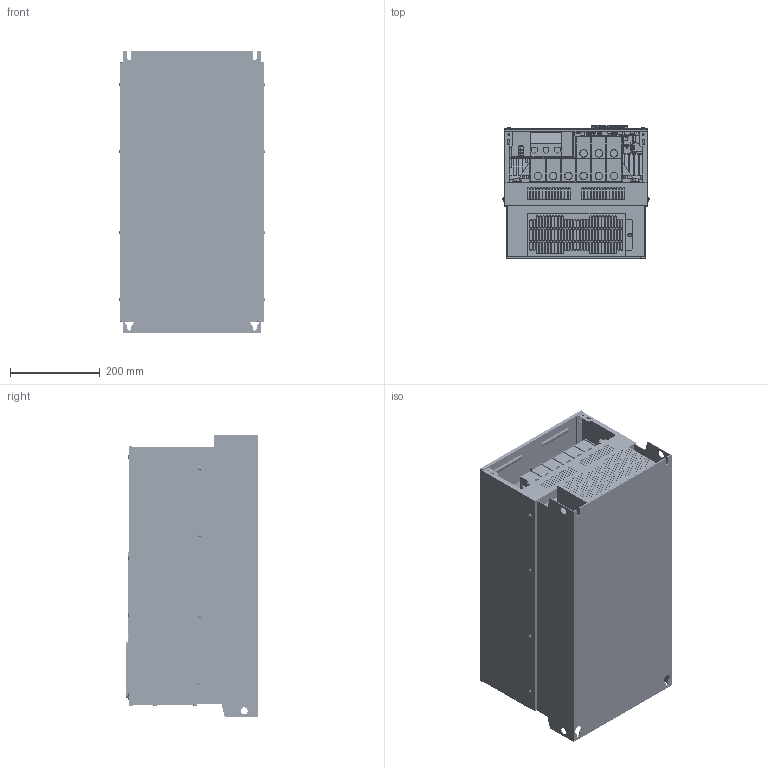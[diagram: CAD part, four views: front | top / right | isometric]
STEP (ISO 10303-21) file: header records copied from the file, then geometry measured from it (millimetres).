
FILE_DESCRIPTION((''),'2;1');
FILE_NAME('VFAS3_S5Y_01_1_ASM_1_ASM','2021-12-07T13:38:26',('SESA57284'),('Schneider-Electric'),'CREO PARAMETRIC BY PTC INC, 2019471','CREO PARAMETRIC BY PTC INC, 2019471','');
FILE_SCHEMA(('AP242_MANAGED_MODEL_BASED_3D_ENGINEERING_MIM_LF { 1 0 10303 442 1 1 4 }'));
Products named in the file (19): OPERATION_PANEL_1_PRT_1_1; OPERATION_PANEL_COVER_1_PRT_1_1; RKP010Z-A1_ASM_3_ASM_1_ASM_1_ASM; S6571352_001_ASM_1_ASM_1_ASM; VFAS3_S5Y_DRIVE_1_PRT_1; VFAS3_CONNECTOR_COVER_PRT_1_1; VFAS3_WIRING_COVER_PRT_1_1; VFAS3_PROTECTION_LABEL_PRT_1_1; VFAS3_CONTROL_TERMINAL_BLOCK__1; VFAS3_SHORTING_BAR_PRT_1_1; VFAS3_S5Y_GROUNDING_SCREW_M8X20; W62400-T1067-A3-52-00N7_IG-2644; W62400-T1067-A3-52-00N7_IG-2645; W62400-T1067-A3-52-00N7_IG-2646; W62400-T1067-A3-52-00N7_IG-2647; W62400-T1067-A3-52-00N7_IG-2648; VFAS3_S5Y_FRONT_COVER_1_PRT_1; VFAS3_S5Y_CONTROL_CAP_1_PRT_1; VFAS3_S5Y_01_1_ASM_1_ASM
Assembly tree (19 placements, depth 4):
  VFAS3_S5Y_01_1_ASM_1_ASM
    S6571352_001_ASM_1_ASM_1_ASM
      RKP010Z-A1_ASM_3_ASM_1_ASM_1_ASM
        OPERATION_PANEL_1_PRT_1_1
        OPERATION_PANEL_COVER_1_PRT_1_1
    VFAS3_S5Y_DRIVE_1_PRT_1
    VFAS3_CONNECTOR_COVER_PRT_1_1
    VFAS3_WIRING_COVER_PRT_1_1
    VFAS3_PROTECTION_LABEL_PRT_1_1
    VFAS3_CONTROL_TERMINAL_BLOCK__1
    VFAS3_SHORTING_BAR_PRT_1_1
    VFAS3_S5Y_GROUNDING_SCREW_M8X20  x2
    W62400-T1067-A3-52-00N7_IG-2644
    W62400-T1067-A3-52-00N7_IG-2645
    W62400-T1067-A3-52-00N7_IG-2646
    W62400-T1067-A3-52-00N7_IG-2647
    W62400-T1067-A3-52-00N7_IG-2648
    VFAS3_S5Y_FRONT_COVER_1_PRT_1
    VFAS3_S5Y_CONTROL_CAP_1_PRT_1
Bounding box: 326.2 x 296.83 x 630 mm (x, y, z)
Volume: 43225602.7 mm3; surface area: 1894872.9 mm2
Topology: 17 solids, 22 shells, 5237 faces, 13650 edges, 9095 vertices
Faces by surface type: plane 2992, cylinder 2037, sphere 80, bspline 52, torus 48, cone 28
Entity records: 165941 total; most frequent: CARTESIAN_POINT 32418, DIRECTION 28263, ORIENTED_EDGE 27134, EDGE_CURVE 13567, AXIS2_PLACEMENT_3D 9727, VERTEX_POINT 9074, VECTOR 8809, LINE 8809
